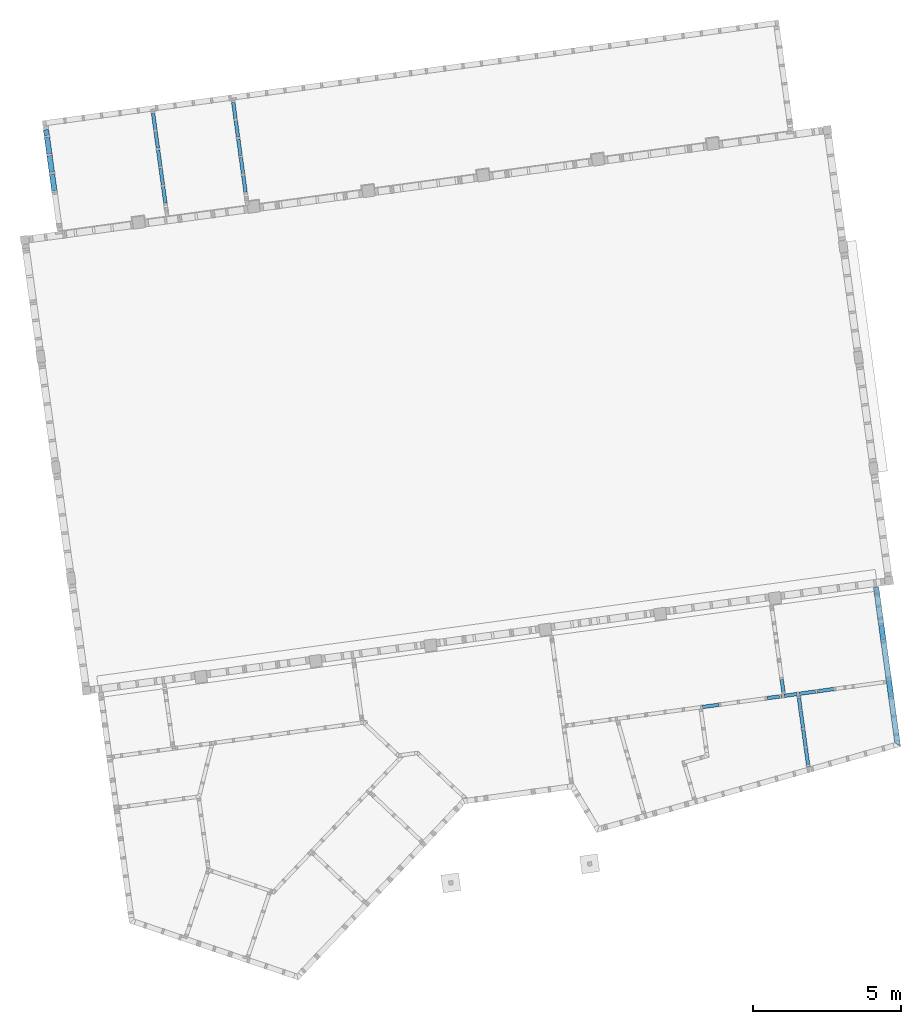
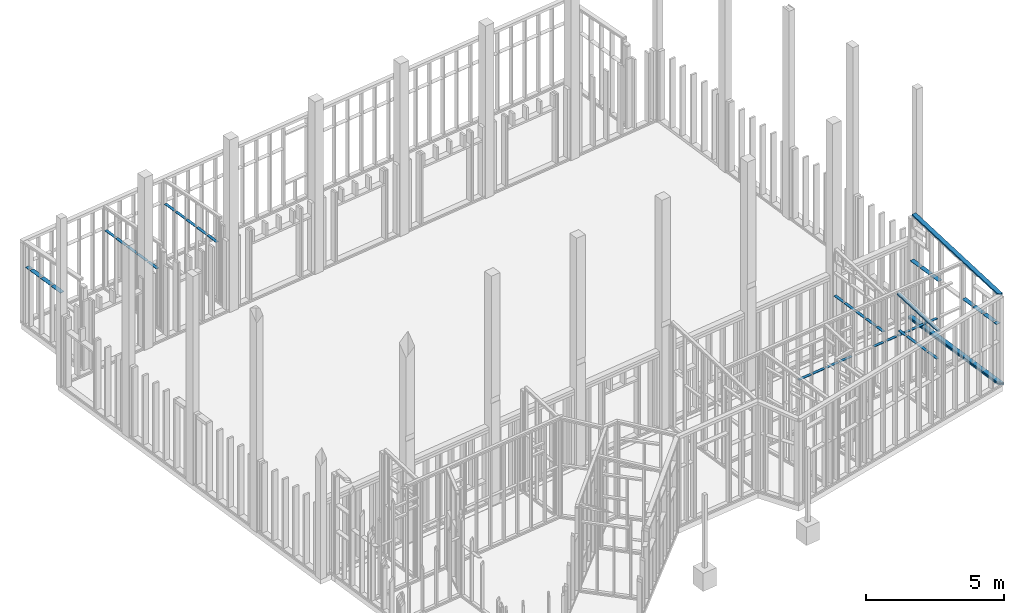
# One storey, part 20 of 24: 13 beams.
"""IFC2X3 building model written with IfcOpenShell, lengths in metres."""

import ifcopenshell
import ifcopenshell.guid

model = None  # the IFC model being written
_history = None  # IfcOwnerHistory: only IFC2X3 demands one
_inside = {}  # id of a spatial element -> (the spatial element, [elements in it])
_under = {}  # id of a project, library or spatial element -> (it, [spatial elements below it])
_declared = {}  # id of a project -> (the project, [libraries it declares])
_typed = {}  # id of a type object -> (the type object, [elements of that type])
_made_of = {}  # id of a material, layer set ... -> (it, [elements and type objects made of it])


def new_model(schema):
    """Start an empty IFC model of exactly this schema.

    Asked for "IFC4X3", IfcOpenShell would pick the latest addendum, in which some entities
    have other attributes; the version numbers below select the first issue.
    IFC2X3 requires an IfcOwnerHistory on every rooted entity: one is made here for all.
    """
    global model, _history
    if schema == "IFC4X3":
        model = ifcopenshell.file(schema_version=(4, 3, 0, 0))
    else:
        model = ifcopenshell.file(schema=schema)
    _inside.clear()
    _under.clear()
    _declared.clear()
    _typed.clear()
    _made_of.clear()
    _history = None
    if model.schema == "IFC2X3":
        org = make("IfcOrganization", Name="unknown")
        user = make(
            "IfcPersonAndOrganization",
            ThePerson=make("IfcPerson", FamilyName="unknown"),
            TheOrganization=org,
        )
        app = make(
            "IfcApplication",
            ApplicationDeveloper=org,
            Version="unknown",
            ApplicationFullName="unknown",
            ApplicationIdentifier="unknown",
        )
        _history = make(
            "IfcOwnerHistory",
            OwningUser=user,
            OwningApplication=app,
            ChangeAction="ADDED",
            CreationDate=0,
        )
    return model


def make(cls, **values):
    """One entity of the class cls with the attributes given. An attribute that is None is left unset."""
    return model.create_entity(
        cls, **{name: value for name, value in values.items() if value is not None}
    )


def entity(cls, *values):
    """Any entity or typed value of the class cls, its attributes in the order of the schema. None: left unset."""
    e = model.create_entity(cls)
    for i, value in enumerate(values):
        if value is not None:
            e[i] = value
    return e


def rooted(cls, **values):
    """An entity with a GlobalId (a new one), such as an element, a storey or a relation."""
    return make(cls, GlobalId=ifcopenshell.guid.new(), OwnerHistory=_history, **values)


def si_unit(unit_type, name, prefix=None):
    """IfcSIUnit, for example si_unit("LENGTHUNIT", "METRE", prefix="MILLI")."""
    return make("IfcSIUnit", UnitType=unit_type, Prefix=prefix, Name=name)


def converted_unit(unit_type, name, factor, base, dimensions=None, offset=None):
    """IfcConversionBasedUnit, such as the inch: factor (a typed value) times the base unit."""
    return make(
        "IfcConversionBasedUnit"
        if offset is None
        else "IfcConversionBasedUnitWithOffset",
        ConversionOffset=offset,
        Dimensions=None
        if dimensions is None
        else entity("IfcDimensionalExponents", *dimensions),
        UnitType=unit_type,
        Name=name,
        ConversionFactor=make(
            "IfcMeasureWithUnit", ValueComponent=factor, UnitComponent=base
        ),
    )


def derived_unit(unit_type, elements):
    """IfcDerivedUnit: a product of units, each with its exponent."""
    return make(
        "IfcDerivedUnit",
        Elements=[
            make("IfcDerivedUnitElement", Unit=unit, Exponent=power)
            for unit, power in elements
        ],
        UnitType=unit_type,
    )


def money_unit(currency):
    """IfcMonetaryUnit."""
    return make("IfcMonetaryUnit", Currency=currency)


def assignment(units):
    """IfcUnitAssignment: the units of a project."""
    return None if units is None else make("IfcUnitAssignment", Units=units)


def point(xyz):
    """IfcCartesianPoint."""
    return None if xyz is None else make("IfcCartesianPoint", Coordinates=xyz)


def direction(xyz):
    """IfcDirection."""
    return None if xyz is None else make("IfcDirection", DirectionRatios=xyz)


def frame(location, z_axis=None, x_axis=None):
    """IfcAxis2Placement3D, a coordinate frame: its origin and axes. An axis left out is left unset."""
    return make(
        "IfcAxis2Placement3D",
        Location=point(location),
        Axis=direction(z_axis),
        RefDirection=direction(x_axis),
    )


def frame_2d(location, x_axis=None):
    """IfcAxis2Placement2D, a coordinate frame in the plane: its origin and x axis."""
    return make(
        "IfcAxis2Placement2D", Location=point(location), RefDirection=direction(x_axis)
    )


def origin_with_axes():
    """The frame at (0, 0, 0) with the z axis (0, 0, 1) and the x axis (1, 0, 0) written out."""
    return frame((0.0, 0.0, 0.0), z_axis=(0.0, 0.0, 1.0), x_axis=(1.0, 0.0, 0.0))


def place(relative_to, where):
    """IfcLocalPlacement: puts the frame where relative to a parent placement (None: the world)."""
    return make(
        "IfcLocalPlacement", PlacementRelTo=relative_to, RelativePlacement=where
    )


def context(
    kind, dimensions, precision=None, world=None, true_north=None, identifier=None
):
    """IfcGeometricRepresentationContext, for example the 3D "Model" context."""
    return make(
        "IfcGeometricRepresentationContext",
        ContextIdentifier=identifier,
        ContextType=kind,
        CoordinateSpaceDimension=dimensions,
        Precision=precision,
        WorldCoordinateSystem=world,
        TrueNorth=true_north,
    )


def subcontext(parent, identifier, kind, view, scale=None):
    """IfcGeometricRepresentationSubContext, for example "Body" below "Model"."""
    return make(
        "IfcGeometricRepresentationSubContext",
        ContextIdentifier=identifier,
        ContextType=kind,
        ParentContext=parent,
        TargetScale=scale,
        TargetView=view,
    )


def project(units=None, contexts=None):
    """IfcProject with its units and contexts."""
    return rooted(
        "IfcProject",
        Name="project",
        RepresentationContexts=contexts,
        UnitsInContext=assignment(units),
    )


def spatial(cls, under=None, at=None, **own):
    """A site, building, storey or space (cls), placed at a placement, below another one or the project."""
    s = rooted(cls, ObjectPlacement=at, **own)
    if under is not None:
        _under.setdefault(under.id(), (under, []))[1].append(s)
    return s


def profile(cls, at=None, kind="AREA", **sizes):
    """A parametric profile (cls). Its sizes go by their IFC names, for example OverallWidth=200.0."""
    return make(cls, ProfileType=kind, Position=at, **sizes)


def rectangle(**sizes):
    """IfcRectangleProfileDef."""
    return profile("IfcRectangleProfileDef", **sizes)


def extrude(swept, where, along, depth):
    """IfcExtrudedAreaSolid: the profile swept, set in the frame where, extruded along a direction by depth."""
    return make(
        "IfcExtrudedAreaSolid",
        SweptArea=swept,
        Position=where,
        ExtrudedDirection=direction(along),
        Depth=depth,
    )


def boolean(op, a, b):
    """IfcBooleanResult of two solids."""
    return make("IfcBooleanResult", Operator=op, FirstOperand=a, SecondOperand=b)


def clip(a, b, op="DIFFERENCE"):
    """IfcBooleanClippingResult: the solid a cut by the half space b."""
    return make(
        "IfcBooleanClippingResult", Operator=op, FirstOperand=a, SecondOperand=b
    )


def halfspace(plane, agree):
    """IfcHalfSpaceSolid: all space on one side of the plane z = 0 of the frame plane."""
    return make(
        "IfcHalfSpaceSolid",
        BaseSurface=make("IfcPlane", Position=plane),
        AgreementFlag=agree,
    )


def faces_of(points, faces, orient=None, outer=None):
    """IfcFace entities. A face is a list of loops; a loop is a list of indices into points, from 0.

    orient and outer hold one flag for each loop. By default every Orientation is true, the
    first loop of a face is its IfcFaceOuterBound and the others are IfcFaceBound.
    """
    made = []
    for i, loops in enumerate(faces):
        bounds = []
        for j, loop in enumerate(loops):
            is_outer = j == 0 if outer is None else outer[i][j]
            bounds.append(
                make(
                    "IfcFaceOuterBound" if is_outer else "IfcFaceBound",
                    Bound=make("IfcPolyLoop", Polygon=[points[k] for k in loop]),
                    Orientation=True if orient is None else orient[i][j],
                )
            )
        made.append(make("IfcFace", Bounds=bounds))
    return made


def faceted_brep(points, faces, orient=None, outer=None, voids=None):
    """IfcFacetedBrep: a solid bounded by flat faces; with voids (closed shells), ...WithVoids."""
    shared = [point(p) for p in points]
    hull = make("IfcClosedShell", CfsFaces=faces_of(shared, faces, orient, outer))
    if voids is None:
        return make("IfcFacetedBrep", Outer=hull)
    return make(
        "IfcFacetedBrepWithVoids",
        Outer=hull,
        Voids=[
            make(cls, CfsFaces=faces_of(shared, fs, o, b)) for cls, fs, o, b in voids
        ],
    )


def shape(context_of_items, identifier, shape_type, items):
    """IfcShapeRepresentation: the items that make up one representation, for example the "Body"."""
    return make(
        "IfcShapeRepresentation",
        ContextOfItems=context_of_items,
        RepresentationIdentifier=identifier,
        RepresentationType=shape_type,
        Items=items,
    )


def material(Name=None, Category=None):
    """IfcMaterial."""
    return make("IfcMaterial", Name=Name, Category=Category)


def made_of(thing, what):
    """Note that an element or type object is made of a material, layer set ...; save() writes the relation."""
    if what is not None:
        _made_of.setdefault(what.id(), (what, []))[1].append(thing)
    return thing


def type_object(cls, material=None, **own):
    """A type object (cls), such as IfcWallType, which elements share."""
    return made_of(rooted(cls, **own), material)


def element(
    cls,
    number,
    at=None,
    inside=None,
    cuts=None,
    type_object=None,
    material=None,
    context=None,
    identifier="Body",
    shape_type=None,
    held_by="IfcProductDefinitionShape",
    body=None,
    shapes=None,
    **own,
):
    """One element of the class cls, such as IfcWall. Its Tag is "e" and its number.

    at: its placement. inside: the storey or other place that contains it. cuts: it is an
    opening in that element (IfcRelVoidsElement). A single representation is given by context,
    identifier, shape_type and body (its items); several are given by shapes. held_by: the class
    of the entity that holds the representations. save() writes the other relations.
    """
    e = rooted(cls, Tag="e%d" % number, ObjectPlacement=at, **own)
    if body is not None:
        shapes = [shape(context, identifier, shape_type, body)]
    if shapes is not None:
        e.Representation = make(held_by, Representations=shapes)
    if inside is not None:
        _inside.setdefault(inside.id(), (inside, []))[1].append(e)
    if cuts is not None:
        rooted(
            "IfcRelVoidsElement", RelatingBuildingElement=cuts, RelatedOpeningElement=e
        )
    if type_object is not None:
        _typed.setdefault(type_object.id(), (type_object, []))[1].append(e)
    return made_of(e, material)


def aggregate(whole, parts):
    """IfcRelAggregates: a whole, such as a stair, and the parts it consists of."""
    return rooted("IfcRelAggregates", RelatingObject=whole, RelatedObjects=parts)


def save(model, path):
    """Write the relations noted so far, then the file.

    IfcRelAggregates (storeys below a building ...), IfcRelContainedInSpatialStructure (elements
    in a storey), IfcRelDefinesByType, IfcRelAssociatesMaterial and IfcRelDeclares: one each for
    every whole, place, type object, material and project.
    """
    for whole, parts in _under.values():
        aggregate(whole, parts)
    for where, things in _inside.values():
        rooted(
            "IfcRelContainedInSpatialStructure",
            RelatedElements=things,
            RelatingStructure=where,
        )
    for kind, things in _typed.values():
        rooted("IfcRelDefinesByType", RelatedObjects=things, RelatingType=kind)
    for what, things in _made_of.values():
        rooted("IfcRelAssociatesMaterial", RelatedObjects=things, RelatingMaterial=what)
    for by, libraries in _declared.values():
        rooted("IfcRelDeclares", RelatingContext=by, RelatedDefinitions=libraries)
    model.write(path)


model = new_model("IFC2X3")

# Units and contexts
model_context = context("Model", 3, precision=1e-05, world=origin_with_axes(), true_north=direction((0.0, 1.0)))
body_context = subcontext(model_context, "Body", "Model", "MODEL_VIEW")
ifc_project = project(units=[si_unit("LENGTHUNIT", "METRE"), si_unit("AREAUNIT", "SQUARE_METRE"), si_unit("VOLUMEUNIT", "CUBIC_METRE"), converted_unit("PLANEANGLEUNIT", "DEGREE", entity("IfcPlaneAngleMeasure", 0.0174532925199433), si_unit("PLANEANGLEUNIT", "RADIAN"), dimensions=[0, 0, 0, 0, 0, 0, 0]), money_unit("EUR"), converted_unit("TIMEUNIT", "Year", entity("IfcTimeMeasure", 31557600.0), si_unit("TIMEUNIT", "SECOND"), dimensions=[0, 0, 1, 0, 0, 0, 0]), si_unit("MASSUNIT", "GRAM", prefix="KILO"), si_unit("THERMODYNAMICTEMPERATUREUNIT", "DEGREE_CELSIUS"), si_unit("LUMINOUSINTENSITYUNIT", "LUMEN"), si_unit("ENERGYUNIT", "JOULE", prefix="MEGA"), derived_unit("THERMALCONDUCTANCEUNIT", [(si_unit("POWERUNIT", "WATT"), 1), (si_unit("LENGTHUNIT", "METRE"), -1), (si_unit("THERMODYNAMICTEMPERATUREUNIT", "KELVIN"), -1)]), derived_unit("SPECIFICHEATCAPACITYUNIT", [(si_unit("ENERGYUNIT", "JOULE"), 1), (si_unit("MASSUNIT", "GRAM", prefix="KILO"), -1), (si_unit("THERMODYNAMICTEMPERATUREUNIT", "KELVIN"), -1)]), derived_unit("MASSDENSITYUNIT", [(si_unit("MASSUNIT", "GRAM", prefix="KILO"), 1), (si_unit("VOLUMEUNIT", "CUBIC_METRE"), -1)])], contexts=[model_context])

# Site, building, storey
site_placement = place(None, origin_with_axes())
site = spatial("IfcSite", under=ifc_project, at=site_placement, Name="Gelände", CompositionType="ELEMENT")
building_placement = place(site_placement, origin_with_axes())
building = spatial("IfcBuilding", under=site, at=building_placement, Name="Gebäude", CompositionType="ELEMENT")
storey_placement = place(building_placement, origin_with_axes())
storey = spatial("IfcBuildingStorey", under=building, at=storey_placement, Name="EG", CompositionType="ELEMENT", Elevation=0.0)

# Beams
ifc_material_1 = material(Name="Holz, Bauholz-hart")
beam_type_1 = type_object("IfcBeamType", Name="Holz, Bauholz-hart 120 x 60", PredefinedType="NOTDEFINED")
beam_1_placement = place(storey_placement, frame((110.6487402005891, -151.1982606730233, 4.095448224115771), z_axis=(0.0, 0.0, 1.0), x_axis=(-0.99074864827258, -0.1357096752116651, 0.0)))
element("IfcBeam", 1, at=beam_1_placement, inside=storey, type_object=beam_type_1, material=ifc_material_1, Name="Unterzug-021", context=body_context, shape_type="CSG", body=[
    boolean("DIFFERENCE", clip(clip(extrude(rectangle(XDim=0.06, YDim=0.12, at=frame_2d((-0.03, 0.0), x_axis=(1.0, 0.0))), frame((0.0, -0.02361845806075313, 0.003319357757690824), z_axis=(0.0, 0.9902680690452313, -0.1391730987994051), x_axis=(0.0, 0.1391730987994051, 0.9902680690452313)), (0.0, 0.0, 1.0), 2.485343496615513), halfspace(frame((0.0, 0.0, 0.0), z_axis=(0.0, 1.0, 0.0), x_axis=(0.0, 0.0, 1.0)), True)), halfspace(frame((0.0, 2.413919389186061, 0.0), z_axis=(0.0, -1.0, 0.0), x_axis=(0.0, 0.0, -1.0)), True)), faceted_brep([(-0.05999999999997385, 2.412473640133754, -0.3996407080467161), (-0.05999999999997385, 2.412473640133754, -0.3390510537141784), (-0.05999999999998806, 2.413919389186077, -0.3392542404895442), (-0.05999999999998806, 2.413919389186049, -0.3998438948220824), (-0.04971888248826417, 2.413919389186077, -0.3392542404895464), (-0.04971888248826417, 2.413919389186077, -0.3998438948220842)], [[[0, 1, 2, 3]], [[4, 1, 0, 5]], [[1, 4, 2]], [[4, 5, 3, 2]], [[5, 0, 3]]])),
])
ifc_material_2 = material(Name="Bauholz")
beam_type_2 = type_object("IfcBeamType", Name="Bauholz 120 x 15", PredefinedType="NOTDEFINED")
beam_2_placement = place(storey_placement, frame((91.9689537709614, -134.1811161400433, 2.564999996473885), z_axis=(0.0, 0.0, 1.0), x_axis=(0.9907484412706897, 0.1357111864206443, 0.0)))
element("IfcBeam", 2, at=beam_2_placement, inside=storey, type_object=beam_type_2, material=ifc_material_2, Name="Unterzug-021", context=body_context, shape_type="CSG", body=[
    boolean("DIFFERENCE", boolean("DIFFERENCE", boolean("DIFFERENCE", boolean("DIFFERENCE", extrude(rectangle(XDim=0.015, YDim=0.12, at=frame_2d((-0.0075, 0.0), x_axis=(1.0, 0.0))), frame((0.0, 0.0, 0.0), z_axis=(0.0, 1.0, 0.0), x_axis=(0.0, 0.0, 1.0)), (0.0, 0.0, 1.0), 3.065000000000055), faceted_brep([(-0.05999999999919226, 0.5649999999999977, 0.0), (0.0600000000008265, 0.5649999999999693, 0.0), (0.06000000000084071, 0.6249999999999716, 0.0), (-0.05999999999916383, 0.625, 0.0), (0.0600000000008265, 0.5649999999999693, -0.01500000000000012), (-0.05999999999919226, 0.5649999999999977, -0.01500000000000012), (0.06000000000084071, 0.6249999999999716, -0.01500000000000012), (-0.05999999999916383, 0.625, -0.01500000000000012)], [[[0, 1, 2, 3]], [[4, 1, 0, 5]], [[1, 4, 6, 2]], [[7, 3, 2, 6]], [[5, 0, 3, 7]], [[4, 5, 7, 6]]])), faceted_brep([(-0.05999999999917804, 1.189999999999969, 0.0), (0.06000000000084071, 1.189999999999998, 0.0), (0.06000000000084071, 1.25, 0.0), (-0.05999999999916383, 1.249999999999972, 0.0), (0.06000000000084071, 1.189999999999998, -0.01500000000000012), (-0.05999999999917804, 1.189999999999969, -0.01500000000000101), (0.06000000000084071, 1.25, -0.01500000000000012), (-0.05999999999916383, 1.249999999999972, -0.01499999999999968)], [[[0, 1, 2, 3]], [[4, 1, 0, 5]], [[1, 4, 6, 2]], [[7, 3, 2, 6]], [[5, 0, 3, 7]], [[4, 5, 7, 6]]])), faceted_brep([(-0.05999999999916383, 1.814999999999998, 0.0), (0.0600000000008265, 1.814999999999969, 0.0), (0.06000000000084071, 1.874999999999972, 0.0), (-0.05999999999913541, 1.875, 0.0), (0.0600000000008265, 1.814999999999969, -0.01500000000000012), (-0.05999999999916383, 1.814999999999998, -0.01499999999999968), (0.06000000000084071, 1.874999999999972, -0.01500000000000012), (-0.05999999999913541, 1.875, -0.01499999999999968)], [[[0, 1, 2, 3]], [[4, 1, 0, 5]], [[1, 4, 6, 2]], [[7, 3, 2, 6]], [[5, 0, 3, 7]], [[4, 5, 7, 6]]])), faceted_brep([(-0.05999999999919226, 2.439999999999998, 0.0), (0.06000000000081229, 2.439999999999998, 0.0), (0.0600000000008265, 2.5, 0.0), (-0.05999999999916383, 2.5, 0.0), (0.06000000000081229, 2.439999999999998, -0.01500000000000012), (-0.05999999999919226, 2.439999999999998, -0.01499999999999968), (0.0600000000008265, 2.5, -0.01500000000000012), (-0.05999999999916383, 2.5, -0.01499999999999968)], [[[0, 1, 2, 3]], [[4, 1, 0, 5]], [[1, 4, 6, 2]], [[7, 3, 2, 6]], [[5, 0, 3, 7]], [[4, 5, 7, 6]]])),
])
beam_3_placement = place(storey_placement, frame((89.26154081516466, -134.5519733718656, 2.564999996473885), z_axis=(0.0, 0.0, 1.0), x_axis=(0.9907484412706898, 0.135711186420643, 0.0)))
element("IfcBeam", 3, at=beam_3_placement, inside=storey, type_object=beam_type_2, material=ifc_material_2, Name="Unterzug-021", context=body_context, shape_type="CSG", body=[
    boolean("DIFFERENCE", boolean("DIFFERENCE", boolean("DIFFERENCE", boolean("DIFFERENCE", extrude(rectangle(XDim=0.015, YDim=0.12, at=frame_2d((-0.0075, 0.0), x_axis=(1.0, 0.0))), frame((0.0, 0.0, 0.0), z_axis=(0.0, 1.0, 0.0), x_axis=(0.0, 0.0, 1.0)), (0.0, 0.0, 1.0), 3.065000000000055), faceted_brep([(-0.05999999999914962, 0.5650000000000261, 0.0), (0.06000000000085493, 0.5649999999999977, 0.0), (0.06000000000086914, 0.625, 0.0), (-0.05999999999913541, 0.6250000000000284, 0.0), (0.06000000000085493, 0.5649999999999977, -0.01500000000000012), (-0.05999999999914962, 0.5650000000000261, -0.01500000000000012), (0.06000000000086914, 0.625, -0.01500000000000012), (-0.05999999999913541, 0.6250000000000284, -0.01500000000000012)], [[[0, 1, 2, 3]], [[4, 1, 0, 5]], [[1, 4, 6, 2]], [[7, 3, 2, 6]], [[5, 0, 3, 7]], [[4, 5, 7, 6]]])), faceted_brep([(-0.05999999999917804, 1.190000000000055, 0.0), (0.06000000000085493, 1.190000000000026, 0.0), (0.06000000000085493, 1.250000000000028, 0.0), (-0.05999999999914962, 1.250000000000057, 0.0), (0.06000000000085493, 1.190000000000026, -0.01500000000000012), (-0.05999999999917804, 1.190000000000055, -0.01500000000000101), (0.06000000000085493, 1.250000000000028, -0.01500000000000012), (-0.05999999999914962, 1.250000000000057, -0.01499999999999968)], [[[0, 1, 2, 3]], [[4, 1, 0, 5]], [[1, 4, 6, 2]], [[7, 3, 2, 6]], [[5, 0, 3, 7]], [[4, 5, 7, 6]]])), faceted_brep([(-0.05999999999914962, 1.815000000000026, 0.0), (0.06000000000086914, 1.814999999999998, 0.0), (0.06000000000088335, 1.875, 0.0), (-0.05999999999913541, 1.875000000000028, 0.0), (0.06000000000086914, 1.814999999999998, -0.01500000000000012), (-0.05999999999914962, 1.815000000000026, -0.01499999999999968), (0.06000000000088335, 1.875, -0.01500000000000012), (-0.05999999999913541, 1.875000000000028, -0.01499999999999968)], [[[0, 1, 2, 3]], [[4, 1, 0, 5]], [[1, 4, 6, 2]], [[7, 3, 2, 6]], [[5, 0, 3, 7]], [[4, 5, 7, 6]]])), faceted_brep([(-0.05999999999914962, 2.440000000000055, 0.0), (0.06000000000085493, 2.440000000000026, 0.0), (0.06000000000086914, 2.500000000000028, 0.0), (-0.05999999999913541, 2.500000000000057, 0.0), (0.06000000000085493, 2.440000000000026, -0.01500000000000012), (-0.05999999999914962, 2.440000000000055, -0.01499999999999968), (0.06000000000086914, 2.500000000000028, -0.01500000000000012), (-0.05999999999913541, 2.500000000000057, -0.01499999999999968)], [[[0, 1, 2, 3]], [[4, 1, 0, 5]], [[1, 4, 6, 2]], [[7, 3, 2, 6]], [[5, 0, 3, 7]], [[4, 5, 7, 6]]])),
])
beam_4_placement = place(storey_placement, frame((112.455916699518, -150.8750155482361, 2.149999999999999), z_axis=(0.0, 0.0, 1.0), x_axis=(-0.1357111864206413, 0.9907484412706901, 0.0)))
element("IfcBeam", 4, at=beam_4_placement, inside=storey, type_object=beam_type_2, material=ifc_material_2, Name="Unterzug-021", context=body_context, shape_type="CSG", body=[
    boolean("DIFFERENCE", boolean("DIFFERENCE", boolean("DIFFERENCE", boolean("DIFFERENCE", boolean("DIFFERENCE", extrude(rectangle(XDim=0.015, YDim=0.12, at=frame_2d((-0.0075, 0.0), x_axis=(1.0, 0.0))), frame((0.0, 0.0, 0.0), z_axis=(0.0, 1.0, 0.0), x_axis=(0.0, 0.0, 1.0)), (0.0, 0.0, 1.0), 2.906923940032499), faceted_brep([(-0.06000034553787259, 2.414518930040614, -0.01500000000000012), (-0.06000034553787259, 2.414518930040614, 0.0), (-0.06000034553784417, 2.474518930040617, 0.0), (-0.06000034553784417, 2.474518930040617, -0.01500000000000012), (0.05999965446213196, 2.414518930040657, 0.0), (0.05999965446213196, 2.414518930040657, -0.01500000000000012), (0.05999965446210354, 2.474518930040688, 0.0), (0.05999965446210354, 2.474518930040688, -0.01500000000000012)], [[[0, 1, 2, 3]], [[4, 1, 0, 5]], [[1, 4, 6, 2]], [[7, 3, 2, 6]], [[5, 0, 3, 7]], [[4, 5, 7, 6]]])), faceted_brep([(0.05999965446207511, 2.387018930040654, 0.0), (-0.06000034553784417, 2.387018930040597, 0.0), (-0.06000034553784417, 2.32701893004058, 0.0), (0.05999965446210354, 2.327018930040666, 0.0), (-0.06000034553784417, 2.387018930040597, -0.01500000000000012), (0.05999965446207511, 2.387018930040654, -0.01500000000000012), (-0.06000034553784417, 2.32701893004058, -0.01500000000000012), (0.05999965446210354, 2.327018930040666, -0.01500000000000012)], [[[0, 1, 2, 3]], [[4, 1, 0, 5]], [[1, 4, 6, 2]], [[6, 7, 3, 2]], [[5, 0, 3, 7]], [[4, 5, 7, 6]]])), faceted_brep([(-0.06000030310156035, 0.5650000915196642, -0.01500000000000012), (-0.06000030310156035, 0.5650000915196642, 0.0), (-0.06000030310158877, 0.6250000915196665, 0.0), (-0.06000030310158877, 0.6250000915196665, -0.01500000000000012), (0.05999969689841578, 0.5650000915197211, 0.0), (0.05999969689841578, 0.5650000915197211, -0.01500000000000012), (0.05999969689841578, 0.6250000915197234, 0.0), (0.05999969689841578, 0.6250000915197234, -0.01500000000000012)], [[[0, 1, 2, 3]], [[4, 1, 0, 5]], [[1, 4, 6, 2]], [[7, 3, 2, 6]], [[5, 0, 3, 7]], [[4, 5, 7, 6]]])), faceted_brep([(-0.06000030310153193, 1.19000009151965, -0.01500000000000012), (-0.06000030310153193, 1.19000009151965, 0.0), (-0.06000030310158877, 1.250000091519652, 0.0), (-0.06000030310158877, 1.250000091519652, -0.01500000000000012), (0.0599996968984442, 1.190000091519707, 0.0), (0.0599996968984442, 1.190000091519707, -0.01500000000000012), (0.05999969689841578, 1.250000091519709, 0.0), (0.05999969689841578, 1.250000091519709, -0.01500000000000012)], [[[0, 1, 2, 3]], [[4, 1, 0, 5]], [[1, 4, 6, 2]], [[7, 3, 2, 6]], [[5, 0, 3, 7]], [[4, 5, 7, 6]]])), faceted_brep([(-0.06000030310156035, 1.815000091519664, -0.01500000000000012), (-0.06000030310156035, 1.815000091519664, 0.0), (-0.06000030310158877, 1.875000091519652, 0.0), (-0.06000030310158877, 1.875000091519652, -0.01500000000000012), (0.05999969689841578, 1.815000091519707, 0.0), (0.05999969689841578, 1.815000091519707, -0.01500000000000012), (0.0599996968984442, 1.875000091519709, 0.0), (0.0599996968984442, 1.875000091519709, -0.01500000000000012)], [[[0, 1, 2, 3]], [[4, 1, 0, 5]], [[1, 4, 6, 2]], [[7, 3, 2, 6]], [[5, 0, 3, 7]], [[4, 5, 7, 6]]])),
])
beam_5_placement = place(storey_placement, frame((109.7386471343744, -148.1846242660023, 2.471999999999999), z_axis=(0.0, 0.0, 1.0), x_axis=(-0.9907486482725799, -0.1357096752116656, 0.0)))
element("IfcBeam", 5, at=beam_5_placement, inside=storey, type_object=beam_type_2, material=ifc_material_2, Name="Unterzug-021", context=body_context, shape_type="CSG", body=[
    boolean("DIFFERENCE", boolean("DIFFERENCE", boolean("DIFFERENCE", boolean("DIFFERENCE", extrude(rectangle(XDim=0.015, YDim=0.12, at=frame_2d((-0.0075, 0.0), x_axis=(1.0, 0.0))), frame((0.0, 0.0, 0.0), z_axis=(0.0, 1.0, 0.0), x_axis=(0.0, 0.0, 1.0)), (0.0, 0.0, 1.0), 2.899265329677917), faceted_brep([(0.0600007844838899, 2.474999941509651, 0.0), (-0.05999921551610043, 2.474999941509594, 0.0), (-0.05999921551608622, 2.414999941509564, 0.0), (0.06000078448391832, 2.414999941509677, 0.0), (-0.05999921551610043, 2.474999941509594, -0.01500000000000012), (0.0600007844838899, 2.474999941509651, -0.01500000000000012), (-0.05999921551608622, 2.414999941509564, -0.01500000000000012), (0.06000078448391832, 2.414999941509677, -0.01500000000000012)], [[[0, 1, 2, 3]], [[4, 1, 0, 5]], [[1, 4, 6, 2]], [[7, 3, 2, 6]], [[5, 0, 3, 7]], [[4, 5, 7, 6]]])), faceted_brep([(0.06000173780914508, 1.849999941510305, 0.0), (-0.05999826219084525, 1.849999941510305, 0.0), (-0.05999826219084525, 1.789999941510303, 0.0), (0.06000173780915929, 1.789999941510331, 0.0), (-0.05999826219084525, 1.849999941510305, -0.01500000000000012), (0.06000173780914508, 1.849999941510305, -0.01500000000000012), (-0.05999826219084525, 1.789999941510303, -0.01500000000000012), (0.06000173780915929, 1.789999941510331, -0.01500000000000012)], [[[0, 1, 2, 3]], [[4, 1, 0, 5]], [[1, 4, 6, 2]], [[7, 3, 2, 6]], [[5, 0, 3, 7]], [[4, 5, 7, 6]]])), faceted_brep([(0.06000269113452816, 1.22499994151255, 0.0), (-0.05999730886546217, 1.224999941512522, 0.0), (-0.05999730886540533, 1.164999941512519, 0.0), (0.0600026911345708, 1.164999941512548, 0.0), (-0.05999730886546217, 1.224999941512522, -0.01500000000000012), (0.06000269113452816, 1.22499994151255, -0.01500000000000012), (-0.05999730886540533, 1.164999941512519, -0.01500000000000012), (0.0600026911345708, 1.164999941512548, -0.01500000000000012)], [[[0, 1, 2, 3]], [[4, 1, 0, 5]], [[1, 4, 6, 2]], [[7, 3, 2, 6]], [[5, 0, 3, 7]], [[4, 5, 7, 6]]])), faceted_brep([(0.06000364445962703, 0.5999999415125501, 0.0), (-0.05999635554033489, 0.5999999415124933, 0.0), (-0.05999635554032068, 0.539999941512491, 0.0), (0.06000364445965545, 0.5399999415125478, 0.0), (-0.05999635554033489, 0.5999999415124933, -0.01500000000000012), (0.06000364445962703, 0.5999999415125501, -0.01500000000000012), (-0.05999635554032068, 0.539999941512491, -0.01500000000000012), (0.06000364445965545, 0.5399999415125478, -0.01500000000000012)], [[[0, 1, 2, 3]], [[4, 1, 0, 5]], [[1, 4, 6, 2]], [[7, 3, 2, 6]], [[5, 0, 3, 7]], [[4, 5, 7, 6]]])),
])
beam_6_placement = place(storey_placement, frame((110.6568827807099, -151.2577055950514, 2.472000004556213), z_axis=(0.0, 0.0, 1.0), x_axis=(-0.9907486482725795, -0.1357096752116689, 0.0)))
element("IfcBeam", 6, at=beam_6_placement, inside=storey, type_object=beam_type_2, material=ifc_material_2, Name="Unterzug-021", context=body_context, shape_type="CSG", body=[
    boolean("DIFFERENCE", boolean("DIFFERENCE", boolean("DIFFERENCE", extrude(rectangle(XDim=0.015, YDim=0.12, at=frame_2d((-0.0075, 0.0), x_axis=(1.0, 0.0))), frame((0.0, 0.0, 0.0), z_axis=(0.0, 1.0, 0.0), x_axis=(0.0, 0.0, 1.0)), (0.0, 0.0, 1.0), 2.277325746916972), faceted_brep([(-0.05999740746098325, 0.4023255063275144, -0.01500000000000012), (-0.05999740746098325, 0.4023255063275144, 0.0), (-0.05999749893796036, 0.4623255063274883, 0.0), (-0.05999749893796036, 0.4623255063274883, -0.01500000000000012), (0.06000259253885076, 0.4023256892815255, 0.0), (0.06000259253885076, 0.4023256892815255, -0.01500000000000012), (0.06000250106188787, 0.4623256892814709, 0.0), (0.06000250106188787, 0.4623256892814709, -0.01500000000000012)], [[[0, 1, 2, 3]], [[4, 1, 0, 5]], [[1, 4, 6, 2]], [[7, 3, 2, 6]], [[5, 0, 3, 7]], [[4, 5, 7, 6]]])), faceted_brep([(-0.05999836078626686, 1.027325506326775, -0.01500000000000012), (-0.05999836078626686, 1.027325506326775, 0.0), (-0.05999845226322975, 1.087325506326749, 0.0), (-0.05999845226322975, 1.087325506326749, -0.01500000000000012), (0.06000163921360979, 1.02732568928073, 0.0), (0.06000163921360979, 1.02732568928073, -0.01500000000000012), (0.06000154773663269, 1.087325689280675, 0.0), (0.06000154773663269, 1.087325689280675, -0.01500000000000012)], [[[0, 1, 2, 3]], [[4, 1, 0, 5]], [[1, 4, 6, 2]], [[7, 3, 2, 6]], [[5, 0, 3, 7]], [[4, 5, 7, 6]]])), faceted_brep([(0.06000059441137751, 1.712325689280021, 0.0), (-0.05999940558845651, 1.712325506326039, 0.0), (-0.05999931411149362, 1.652325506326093, 0.0), (0.06000068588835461, 1.652325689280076, 0.0), (-0.05999940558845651, 1.712325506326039, -0.01500000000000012), (0.06000059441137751, 1.712325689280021, -0.01500000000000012), (-0.05999931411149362, 1.652325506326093, -0.01500000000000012), (0.06000068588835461, 1.652325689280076, -0.01500000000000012)], [[[0, 1, 2, 3]], [[4, 1, 0, 5]], [[1, 4, 6, 2]], [[7, 3, 2, 6]], [[5, 0, 3, 7]], [[4, 5, 7, 6]]])),
])
beam_7_placement = place(storey_placement, frame((108.5801834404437, -151.4059021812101, 2.149999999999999), z_axis=(0.0, 0.0, 1.0), x_axis=(-0.1357111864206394, 0.9907484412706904, 0.0)))
element("IfcBeam", 7, at=beam_7_placement, inside=storey, type_object=beam_type_2, material=ifc_material_2, Name="Unterzug-021", context=body_context, shape_type="CSG", body=[
    boolean("DIFFERENCE", boolean("DIFFERENCE", boolean("DIFFERENCE", extrude(rectangle(XDim=0.015, YDim=0.12, at=frame_2d((-0.0075, 0.0), x_axis=(1.0, 0.0))), frame((0.0, 0.0, 0.0), z_axis=(0.0, 1.0, 0.0), x_axis=(0.0, 0.0, 1.0)), (0.0, 0.0, 1.0), 2.439999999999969), faceted_brep([(-0.06000555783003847, 0.5650000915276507, -0.01500000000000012), (-0.06000555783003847, 0.5650000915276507, 0.0), (-0.06000555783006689, 0.625000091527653, 0.0), (-0.06000555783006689, 0.625000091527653, -0.01500000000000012), (0.05999444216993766, 0.5650000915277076, 0.0), (0.05999444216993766, 0.5650000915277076, -0.01500000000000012), (0.05999444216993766, 0.6250000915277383, 0.0), (0.05999444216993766, 0.6250000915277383, -0.01500000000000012)], [[[0, 1, 2, 3]], [[4, 1, 0, 5]], [[1, 4, 6, 2]], [[7, 3, 2, 6]], [[5, 0, 3, 7]], [[4, 5, 7, 6]]])), faceted_brep([(-0.06000555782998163, 1.190000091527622, -0.01500000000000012), (-0.06000555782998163, 1.190000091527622, 0.0), (-0.06000555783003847, 1.250000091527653, 0.0), (-0.06000555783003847, 1.250000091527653, -0.01500000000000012), (0.0599944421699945, 1.190000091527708, 0.0), (0.0599944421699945, 1.190000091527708, -0.01500000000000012), (0.0599944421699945, 1.25000009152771, 0.0), (0.0599944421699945, 1.25000009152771, -0.01500000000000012)], [[[0, 1, 2, 3]], [[4, 1, 0, 5]], [[1, 4, 6, 2]], [[7, 3, 2, 6]], [[5, 0, 3, 7]], [[4, 5, 7, 6]]])), faceted_brep([(-0.06000555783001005, 1.815000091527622, -0.01500000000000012), (-0.06000555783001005, 1.815000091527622, 0.0), (-0.06000555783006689, 1.875000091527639, 0.0), (-0.06000555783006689, 1.875000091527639, -0.01500000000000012), (0.05999444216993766, 1.815000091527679, 0.0), (0.05999444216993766, 1.815000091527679, -0.01500000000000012), (0.05999444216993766, 1.875000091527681, 0.0), (0.05999444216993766, 1.875000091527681, -0.01500000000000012)], [[[0, 1, 2, 3]], [[4, 1, 0, 5]], [[1, 4, 6, 2]], [[7, 3, 2, 6]], [[5, 0, 3, 7]], [[4, 5, 7, 6]]])),
])
ifc_material_3 = material(Name="Holz, Bauholz")
beam_type_3 = type_object("IfcBeamType", Name="Holz, Bauholz 180 x 60", PredefinedType="NOTDEFINED")
beam_8_placement = place(storey_placement, frame((113.2945926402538, -147.750122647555, 4.585694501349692), z_axis=(0.0, 0.0, 1.0), x_axis=(-0.9907484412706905, -0.1357111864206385, 0.0)))
element("IfcBeam", 8, at=beam_8_placement, inside=storey, type_object=beam_type_3, material=ifc_material_3, Name="Unterzug-035", context=body_context, shape_type="CSG", body=[
    boolean("DIFFERENCE", clip(clip(extrude(rectangle(XDim=0.06, YDim=0.18, at=frame_2d((-0.03, 0.0), x_axis=(1.0, 0.0))), frame((0.0, -0.03542768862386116, 0.004979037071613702), z_axis=(0.0, 0.9902680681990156, -0.1391731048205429), x_axis=(0.0, 0.1391731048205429, 0.9902680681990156)), (0.0, 0.0, 1.0), 5.314755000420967), halfspace(frame((0.0, 0.0, 0.0), z_axis=(0.0, 1.0, 0.0), x_axis=(0.0, 0.0, 1.0)), True)), halfspace(frame((0.0, 5.134539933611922, 0.0), z_axis=(0.0, -1.0, 0.0), x_axis=(0.0, 0.0, -1.0)), True)), faceted_brep([(0.08999999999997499, 5.049686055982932, -0.7702767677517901), (-8.468577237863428e-05, 5.134539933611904, -0.7822022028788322), (0.08999999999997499, 5.134539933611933, -0.7822022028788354), (0.008780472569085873, 5.134539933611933, -0.72161254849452), (0.08999999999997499, 5.058036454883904, -0.7108606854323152), (0.08999999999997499, 5.134539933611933, -0.7216125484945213)], [[[0, 1, 2]], [[3, 1, 0, 4]], [[1, 3, 5, 2]], [[4, 0, 2, 5]], [[3, 4, 5]]])),
])
beam_9_placement = place(storey_placement, frame((113.2620762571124, -147.512739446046, -0.1029999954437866), z_axis=(0.0, 0.0, 1.0), x_axis=(-0.9907484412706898, -0.1357111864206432, 0.0)))
element("IfcBeam", 9, at=beam_9_placement, inside=storey, type_object=beam_type_3, material=ifc_material_3, Name="Unterzug-021", context=body_context, shape_type="CSG", body=[
    boolean("DIFFERENCE", extrude(rectangle(XDim=0.06, YDim=0.18, at=frame_2d((-0.03, 0.0), x_axis=(1.0, 0.0))), frame((0.0, 0.0, 0.0), z_axis=(0.0, 1.0, 0.0), x_axis=(0.0, 0.0, 1.0)), (0.0, 0.0, 1.0), 5.45238946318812), faceted_brep([(-0.0899999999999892, 5.452369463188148, -0.06000000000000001), (-0.0899999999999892, 5.452369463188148, 0.0), (-0.0899999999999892, 5.452389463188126, 0.0), (-0.0899999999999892, 5.452389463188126, -0.05999999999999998), (0.09000000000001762, 5.295910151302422, 0.0), (0.09000000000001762, 5.295910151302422, -0.05999999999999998), (0.09000000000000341, 5.452389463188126, 0.0), (0.09000000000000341, 5.452389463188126, -0.05999999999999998)], [[[0, 1, 2, 3]], [[4, 1, 0, 5]], [[1, 4, 6, 2]], [[6, 7, 3, 2]], [[5, 0, 3, 7]], [[4, 5, 7, 6]]])),
])
beam_type_4 = type_object("IfcBeamType", Name="Bauholz 180 x 60", PredefinedType="NOTDEFINED")
beam_10_placement = place(storey_placement, frame((113.2620762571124, -147.512739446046, -0.04299999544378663), z_axis=(0.0, 0.0, 1.0), x_axis=(-0.9907484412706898, -0.1357111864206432, 0.0)))
element("IfcBeam", 10, at=beam_10_placement, inside=storey, type_object=beam_type_4, material=ifc_material_2, Name="Unterzug-021", context=body_context, shape_type="CSG", body=[
    boolean("DIFFERENCE", extrude(rectangle(XDim=0.06, YDim=0.18, at=frame_2d((-0.03, 0.0), x_axis=(1.0, 0.0))), frame((0.0, 0.0, 0.0), z_axis=(0.0, 1.0, 0.0), x_axis=(0.0, 0.0, 1.0)), (0.0, 0.0, 1.0), 5.45238946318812), faceted_brep([(-0.0899999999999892, 5.452369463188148, -0.06), (-0.0899999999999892, 5.452369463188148, 0.0), (-0.0899999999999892, 5.452389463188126, 0.0), (-0.0899999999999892, 5.452389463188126, -0.06), (0.09000000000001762, 5.295910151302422, 0.0), (0.09000000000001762, 5.295910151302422, -0.06), (0.09000000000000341, 5.452389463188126, 0.0), (0.09000000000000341, 5.452389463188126, -0.06)], [[[0, 1, 2, 3]], [[4, 1, 0, 5]], [[1, 4, 6, 2]], [[6, 7, 3, 2]], [[5, 0, 3, 7]], [[4, 5, 7, 6]]])),
])
beam_type_5 = type_object("IfcBeamType", Name="Bauholz 180 x 15", PredefinedType="NOTDEFINED")
beam_11_placement = place(storey_placement, frame((113.6955737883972, -150.6774527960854, 2.472000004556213), z_axis=(0.0, 0.0, 1.0), x_axis=(-0.9907484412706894, -0.1357111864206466, 0.0)))
element("IfcBeam", 11, at=beam_11_placement, inside=storey, type_object=beam_type_5, material=ifc_material_2, Name="Unterzug-021", context=body_context, shape_type="CSG", body=[
    boolean("DIFFERENCE", boolean("DIFFERENCE", boolean("DIFFERENCE", extrude(rectangle(XDim=0.015, YDim=0.18, at=frame_2d((-0.0075, 0.0), x_axis=(1.0, 0.0))), frame((0.0, 0.0, 0.0), z_axis=(0.0, 1.0, 0.0), x_axis=(0.0, 0.0, 1.0)), (0.0, 0.0, 1.0), 2.041644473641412), faceted_brep([(0.08999991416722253, 1.865734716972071, 0.0), (-0.0900000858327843, 1.865734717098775, 0.0), (-0.09000008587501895, 1.805734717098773, 0.0), (0.08999991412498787, 1.805734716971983, 0.0), (-0.0900000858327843, 1.865734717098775, -0.01500000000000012), (0.08999991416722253, 1.865734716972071, -0.01500000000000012), (-0.09000008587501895, 1.805734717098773, -0.01500000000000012), (0.08999991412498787, 1.805734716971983, -0.01500000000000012)], [[[0, 1, 2, 3]], [[4, 1, 0, 5]], [[1, 4, 6, 2]], [[7, 3, 2, 6]], [[5, 0, 3, 7]], [[4, 5, 7, 6]]])), faceted_brep([(0.08999991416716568, 1.240734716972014, 0.0), (-0.09000008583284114, 1.240734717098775, 0.0), (-0.0900000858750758, 1.180734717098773, 0.0), (0.08999991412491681, 1.180734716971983, 0.0), (-0.09000008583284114, 1.240734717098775, -0.01500000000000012), (0.08999991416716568, 1.240734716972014, -0.01500000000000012), (-0.0900000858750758, 1.180734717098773, -0.01500000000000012), (0.08999991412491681, 1.180734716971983, -0.01500000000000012)], [[[0, 1, 2, 3]], [[4, 1, 0, 5]], [[1, 4, 6, 2]], [[7, 3, 2, 6]], [[5, 0, 3, 7]], [[4, 5, 7, 6]]])), faceted_brep([(0.0899999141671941, 0.6157347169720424, 0.0), (-0.09000008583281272, 0.6157347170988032, 0.0), (-0.09000008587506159, 0.5557347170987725, 0.0), (0.08999991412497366, 0.5557347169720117, 0.0), (-0.09000008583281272, 0.6157347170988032, -0.01500000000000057), (0.0899999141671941, 0.6157347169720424, -0.01500000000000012), (-0.09000008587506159, 0.5557347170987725, -0.01500000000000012), (0.08999991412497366, 0.5557347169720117, -0.01500000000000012)], [[[0, 1, 2, 3]], [[4, 1, 0, 5]], [[1, 4, 6, 2]], [[7, 3, 2, 6]], [[5, 0, 3, 7]], [[4, 5, 7, 6]]])),
])
beam_12_placement = place(storey_placement, frame((113.2783616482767, -147.6316296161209, 2.472000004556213), z_axis=(0.0, 0.0, 1.0), x_axis=(-0.9907484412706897, -0.1357111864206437, 0.0)))
element("IfcBeam", 12, at=beam_12_placement, inside=storey, type_object=beam_type_5, material=ifc_material_2, Name="Unterzug-021", context=body_context, shape_type="CSG", body=[
    boolean("DIFFERENCE", boolean("DIFFERENCE", extrude(rectangle(XDim=0.015, YDim=0.18, at=frame_2d((-0.0075, 0.0), x_axis=(1.0, 0.0))), frame((0.0, 0.0, 0.0), z_axis=(0.0, 1.0, 0.0), x_axis=(0.0, 0.0, 1.0)), (0.0, 0.0, 1.0), 1.674264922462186), faceted_brep([(0.08999991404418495, 1.189999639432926, 0.0), (-0.09000008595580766, 1.18999963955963, 0.0), (-0.09000008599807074, 1.129999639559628, 0.0), (0.08999991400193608, 1.129999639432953, 0.0), (-0.09000008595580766, 1.18999963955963, -0.01500000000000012), (0.08999991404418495, 1.189999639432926, -0.01500000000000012), (-0.09000008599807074, 1.129999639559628, -0.01500000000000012), (0.08999991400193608, 1.129999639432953, -0.01500000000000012)], [[[0, 1, 2, 3]], [[4, 1, 0, 5]], [[1, 4, 6, 2]], [[7, 3, 2, 6]], [[5, 0, 3, 7]], [[4, 5, 7, 6]]])), faceted_brep([(0.089999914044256, 0.5649996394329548, 0.0), (-0.09000008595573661, 0.5649996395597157, 0.0), (-0.09000008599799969, 0.5049996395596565, 0.0), (0.08999991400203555, 0.504999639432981, 0.0), (-0.09000008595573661, 0.5649996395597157, -0.01500000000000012), (0.089999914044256, 0.5649996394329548, -0.01500000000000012), (-0.09000008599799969, 0.5049996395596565, -0.01500000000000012), (0.08999991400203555, 0.504999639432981, -0.01500000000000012)], [[[0, 1, 2, 3]], [[4, 1, 0, 5]], [[1, 4, 6, 2]], [[7, 3, 2, 6]], [[5, 0, 3, 7]], [[4, 5, 7, 6]]])),
])
beam_13_placement = place(storey_placement, frame((85.22995324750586, -132.0711534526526, 2.564999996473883), z_axis=(0.0, 0.0, 1.0), x_axis=(-0.9907484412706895, -0.1357111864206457, 0.0)))
element("IfcBeam", 13, at=beam_13_placement, inside=storey, type_object=beam_type_5, material=ifc_material_2, Name="Unterzug-021", context=body_context, shape_type="CSG", body=[
    boolean("DIFFERENCE", boolean("DIFFERENCE", boolean("DIFFERENCE", extrude(rectangle(XDim=0.015, YDim=0.18, at=frame_2d((-0.0075, 0.0), x_axis=(1.0, 0.0))), frame((0.0, 0.0, 0.0), z_axis=(0.0, 1.0, 0.0), x_axis=(0.0, 0.0, 1.0)), (0.0, 0.0, 1.0), 2.072499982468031), faceted_brep([(0.08999997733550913, 1.507499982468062, 0.0), (-0.0900000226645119, 1.507499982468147, 0.0), (-0.0900000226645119, 1.447499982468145, 0.0), (0.08999997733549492, 1.447499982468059, 0.0), (-0.0900000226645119, 1.507499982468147, -0.01500000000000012), (0.08999997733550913, 1.507499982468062, -0.01500000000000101), (-0.0900000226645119, 1.447499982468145, -0.01500000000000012), (0.08999997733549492, 1.447499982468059, -0.01500000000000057)], [[[0, 1, 2, 3]], [[4, 1, 0, 5]], [[1, 4, 6, 2]], [[7, 3, 2, 6]], [[5, 0, 3, 7]], [[4, 5, 7, 6]]])), faceted_brep([(0.08999997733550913, 0.8824999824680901, 0.0), (-0.0900000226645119, 0.8824999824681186, 0.0), (-0.09000002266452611, 0.8224999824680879, 0.0), (0.08999997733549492, 0.8224999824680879, 0.0), (-0.0900000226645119, 0.8824999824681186, -0.01500000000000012), (0.08999997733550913, 0.8824999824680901, -0.01500000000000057), (-0.09000002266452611, 0.8224999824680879, -0.01499999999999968), (0.08999997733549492, 0.8224999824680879, -0.01500000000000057)], [[[0, 1, 2, 3]], [[4, 1, 0, 5]], [[1, 4, 6, 2]], [[7, 3, 2, 6]], [[5, 0, 3, 7]], [[4, 5, 7, 6]]])), faceted_brep([(0.08999997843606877, 0.2574999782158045, 0.0), (-0.09000002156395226, 0.2574999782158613, 0.0), (-0.09000002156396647, 0.1974999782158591, 0.0), (0.08999997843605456, 0.1974999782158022, 0.0), (-0.09000002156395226, 0.2574999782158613, -0.01499999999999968), (0.08999997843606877, 0.2574999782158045, -0.01500000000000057), (-0.09000002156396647, 0.1974999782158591, -0.01500000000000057), (0.08999997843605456, 0.1974999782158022, -0.01500000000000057)], [[[0, 1, 2, 3]], [[4, 1, 0, 5]], [[1, 4, 6, 2]], [[7, 3, 2, 6]], [[5, 0, 3, 7]], [[4, 5, 7, 6]]])),
])

save(model, "model.ifc")
